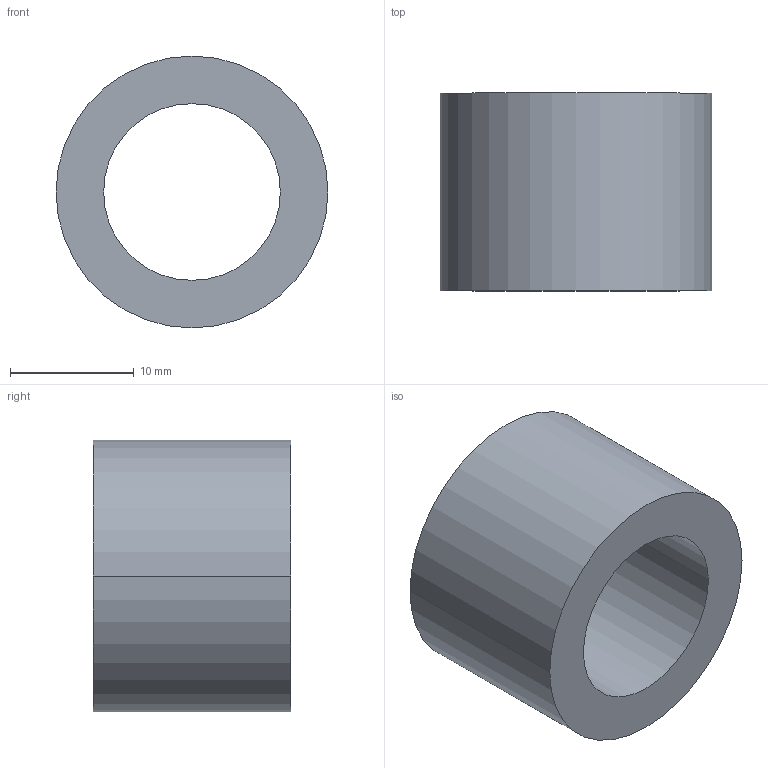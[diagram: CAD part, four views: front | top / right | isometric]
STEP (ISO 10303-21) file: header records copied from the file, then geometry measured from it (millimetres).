
FILE_DESCRIPTION (( 'STEP AP203' ), '1' );
FILE_NAME ('30800.WPP22F14.3.step', '2019-01-23T22:43:28', ( '' ), ( '' ), 'SwSTEP 2.0', 'SolidWorks 2017', '' );
FILE_SCHEMA (( 'CONFIG_CONTROL_DESIGN' ));
Length unit declared in the file: millimetre
Products named in the file (1): 30800.WPP22F14.3
Bounding box: 22 x 16 x 22 mm (x, y, z)
Volume: 3471.5 mm3; surface area: 2226.9 mm2
Topology: 1 solids, 1 shells, 8 faces, 16 edges, 10 vertices
Faces by surface type: cylinder 4, torus 2, plane 2
Entity records: 297 total; most frequent: DIRECTION 46, CARTESIAN_POINT 35, ORIENTED_EDGE 32, AXIS2_PLACEMENT_3D 21, EDGE_CURVE 16, CIRCLE 12, EDGE_LOOP 10, VERTEX_POINT 10
